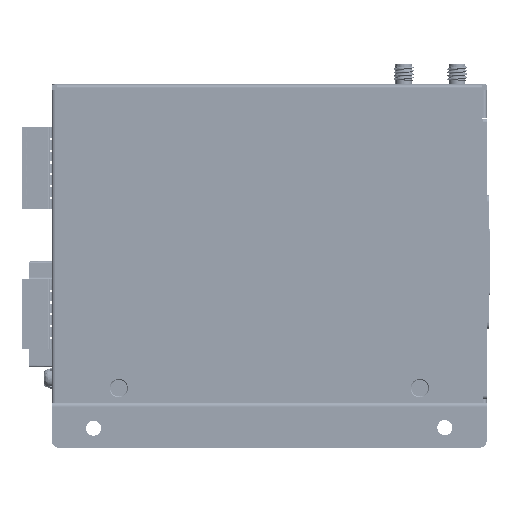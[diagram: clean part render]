
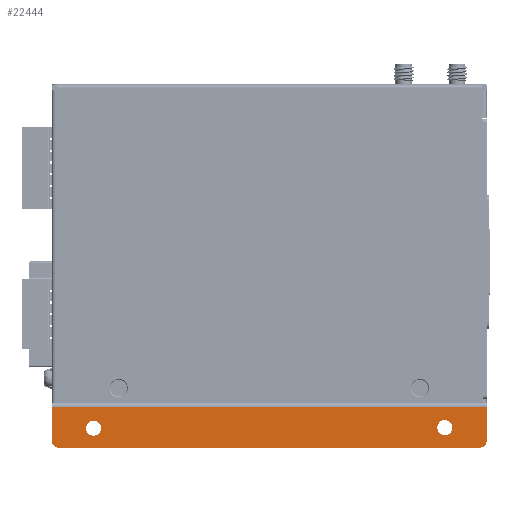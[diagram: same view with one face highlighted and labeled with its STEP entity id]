
A CAD part, left-side view. The second image highlights one B-rep face of the part: STEP entity #22444.
In plain terms, the highlighted planar face has unit normal (-1, 0, 0) as drawn and (0, -1, 0) by its records, which use the part's own axes.
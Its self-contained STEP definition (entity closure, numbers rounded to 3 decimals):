
#2003 = DIRECTION ( 'NONE',  ( 1., 0., 0. ) ) ;
#2689 = CARTESIAN_POINT ( 'NONE',  ( 5.25, 0., 52.5 ) ) ;
#3444 = AXIS2_PLACEMENT_3D ( 'NONE', #308967, #88547, #324119 ) ;
#8109 = AXIS2_PLACEMENT_3D ( 'NONE', #401223, #227674, #632928 ) ;
#22444 = ADVANCED_FACE ( 'NONE', ( #503746, #271945, #380205 ), #275769, .F. ) ;
#26846 = VERTEX_POINT ( 'NONE', #544624 ) ;
#34320 = VERTEX_POINT ( 'NONE', #73008 ) ;
#45935 = LINE ( 'NONE', #49704, #757121 ) ;
#49704 = CARTESIAN_POINT ( 'NONE',  ( 1.2, 0., -65. ) ) ;
#52330 = DIRECTION ( 'NONE',  ( 0., -1., 0. ) ) ;
#61718 = EDGE_CURVE ( 'NONE', #726582, #622997, #441154, .T. ) ;
#64587 = AXIS2_PLACEMENT_3D ( 'NONE', #159681, #163480, #623023 ) ;
#67187 = DIRECTION ( 'NONE',  ( -1., 0., 0. ) ) ;
#69996 = CARTESIAN_POINT ( 'NONE',  ( 13.5, 0., -65. ) ) ;
#71798 = VERTEX_POINT ( 'NONE', #175520 ) ;
#73008 = CARTESIAN_POINT ( 'NONE',  ( 1.2, 0., -65. ) ) ;
#73797 = DIRECTION ( 'NONE',  ( -1., 0., 0. ) ) ;
#80470 = CARTESIAN_POINT ( 'NONE',  ( 11.5, 0., 65. ) ) ;
#86636 = CARTESIAN_POINT ( 'NONE',  ( 13.5, 0., -65. ) ) ;
#88365 = VECTOR ( 'NONE', #384294, 1000. ) ;
#88547 = DIRECTION ( 'NONE',  ( 0., -1., 0. ) ) ;
#134820 = VERTEX_POINT ( 'NONE', #481946 ) ;
#144902 = LINE ( 'NONE', #395661, #88365 ) ;
#147674 = CARTESIAN_POINT ( 'NONE',  ( 13.5, 0., 65. ) ) ;
#157861 = AXIS2_PLACEMENT_3D ( 'NONE', #400388, #504960, #392802 ) ;
#159681 = CARTESIAN_POINT ( 'NONE',  ( 7.5, 0., 52.5 ) ) ;
#163480 = DIRECTION ( 'NONE',  ( 0., -1., 0. ) ) ;
#175520 = CARTESIAN_POINT ( 'NONE',  ( 13.5, 0., 63. ) ) ;
#176171 = CIRCLE ( 'NONE', #64587, 2.25 ) ;
#179909 = CARTESIAN_POINT ( 'NONE',  ( 7.683, 0., -52.5 ) ) ;
#181926 = ORIENTED_EDGE ( 'NONE', *, *, #485653, .F. ) ;
#198863 = CARTESIAN_POINT ( 'NONE',  ( 9.933, 0., -52.5 ) ) ;
#203045 = VERTEX_POINT ( 'NONE', #312584 ) ;
#214624 = ORIENTED_EDGE ( 'NONE', *, *, #61718, .T. ) ;
#227674 = DIRECTION ( 'NONE',  ( 0., -1., 0. ) ) ;
#271945 = FACE_BOUND ( 'NONE', #448316, .T. ) ;
#275769 = PLANE ( 'NONE',  #532961 ) ;
#284136 = ORIENTED_EDGE ( 'NONE', *, *, #722050, .T. ) ;
#308078 = CARTESIAN_POINT ( 'NONE',  ( 1.2, 0., 65. ) ) ;
#308967 = CARTESIAN_POINT ( 'NONE',  ( 7.683, 0., -52.5 ) ) ;
#312584 = CARTESIAN_POINT ( 'NONE',  ( 11.5, 0., -65. ) ) ;
#318449 = DIRECTION ( 'NONE',  ( -1., 0., 0. ) ) ;
#324119 = DIRECTION ( 'NONE',  ( 1., 0., 0. ) ) ;
#324314 = CIRCLE ( 'NONE', #3444, 2.25 ) ;
#341670 = VECTOR ( 'NONE', #564627, 1000. ) ;
#353656 = CIRCLE ( 'NONE', #723587, 2.25 ) ;
#360745 = CARTESIAN_POINT ( 'NONE',  ( 11.5, 0., 63. ) ) ;
#380205 = FACE_OUTER_BOUND ( 'NONE', #603699, .T. ) ;
#384294 = DIRECTION ( 'NONE',  ( 0., 0., 1. ) ) ;
#392019 = CIRCLE ( 'NONE', #157861, 2.25 ) ;
#392802 = DIRECTION ( 'NONE',  ( 1., 0., 0. ) ) ;
#395661 = CARTESIAN_POINT ( 'NONE',  ( 13.5, 0., -65. ) ) ;
#400388 = CARTESIAN_POINT ( 'NONE',  ( 7.5, 0., 52.5 ) ) ;
#401223 = CARTESIAN_POINT ( 'NONE',  ( 11.5, 0., -63. ) ) ;
#404386 = EDGE_CURVE ( 'NONE', #134820, #480391, #324314, .T. ) ;
#405098 = ORIENTED_EDGE ( 'NONE', *, *, #616871, .F. ) ;
#441154 = LINE ( 'NONE', #147674, #341670 ) ;
#442893 = CARTESIAN_POINT ( 'NONE',  ( 9.75, 0., 52.5 ) ) ;
#448316 = EDGE_LOOP ( 'NONE', ( #405098, #461548 ) ) ;
#454260 = AXIS2_PLACEMENT_3D ( 'NONE', #360745, #588607, #67187 ) ;
#461548 = ORIENTED_EDGE ( 'NONE', *, *, #404386, .F. ) ;
#480391 = VERTEX_POINT ( 'NONE', #198863 ) ;
#481946 = CARTESIAN_POINT ( 'NONE',  ( 5.433, 0., -52.5 ) ) ;
#485653 = EDGE_CURVE ( 'NONE', #511316, #541446, #392019, .T. ) ;
#487033 = ORIENTED_EDGE ( 'NONE', *, *, #737325, .F. ) ;
#503746 = FACE_BOUND ( 'NONE', #506538, .T. ) ;
#504960 = DIRECTION ( 'NONE',  ( 0., -1., 0. ) ) ;
#506538 = EDGE_LOOP ( 'NONE', ( #181926, #631117 ) ) ;
#511316 = VERTEX_POINT ( 'NONE', #442893 ) ;
#514247 = EDGE_CURVE ( 'NONE', #26846, #71798, #144902, .T. ) ;
#526017 = ORIENTED_EDGE ( 'NONE', *, *, #671459, .T. ) ;
#532961 = AXIS2_PLACEMENT_3D ( 'NONE', #86636, #630880, #318449 ) ;
#541446 = VERTEX_POINT ( 'NONE', #2689 ) ;
#542327 = ORIENTED_EDGE ( 'NONE', *, *, #514247, .T. ) ;
#544624 = CARTESIAN_POINT ( 'NONE',  ( 13.5, 0., -63. ) ) ;
#564627 = DIRECTION ( 'NONE',  ( -1., 0., 0. ) ) ;
#588607 = DIRECTION ( 'NONE',  ( 0., -1., 0. ) ) ;
#603699 = EDGE_LOOP ( 'NONE', ( #487033, #526017, #542327, #284136, #214624, #755477 ) ) ;
#610897 = EDGE_CURVE ( 'NONE', #622997, #34320, #45935, .T. ) ;
#616871 = EDGE_CURVE ( 'NONE', #480391, #134820, #353656, .T. ) ;
#622997 = VERTEX_POINT ( 'NONE', #308078 ) ;
#623023 = DIRECTION ( 'NONE',  ( 1., 0., 0. ) ) ;
#626708 = CIRCLE ( 'NONE', #454260, 2. ) ;
#630880 = DIRECTION ( 'NONE',  ( 0., 1., 0. ) ) ;
#631117 = ORIENTED_EDGE ( 'NONE', *, *, #688436, .F. ) ;
#632928 = DIRECTION ( 'NONE',  ( -1., 0., 0. ) ) ;
#671459 = EDGE_CURVE ( 'NONE', #203045, #26846, #747961, .T. ) ;
#688436 = EDGE_CURVE ( 'NONE', #541446, #511316, #176171, .T. ) ;
#695916 = VECTOR ( 'NONE', #73797, 1000. ) ;
#714946 = LINE ( 'NONE', #69996, #695916 ) ;
#722050 = EDGE_CURVE ( 'NONE', #71798, #726582, #626708, .T. ) ;
#723587 = AXIS2_PLACEMENT_3D ( 'NONE', #179909, #52330, #2003 ) ;
#726582 = VERTEX_POINT ( 'NONE', #80470 ) ;
#737325 = EDGE_CURVE ( 'NONE', #203045, #34320, #714946, .T. ) ;
#747961 = CIRCLE ( 'NONE', #8109, 2. ) ;
#755477 = ORIENTED_EDGE ( 'NONE', *, *, #610897, .T. ) ;
#757121 = VECTOR ( 'NONE', #760233, 1000. ) ;
#760233 = DIRECTION ( 'NONE',  ( 0., 0., -1. ) ) ;
